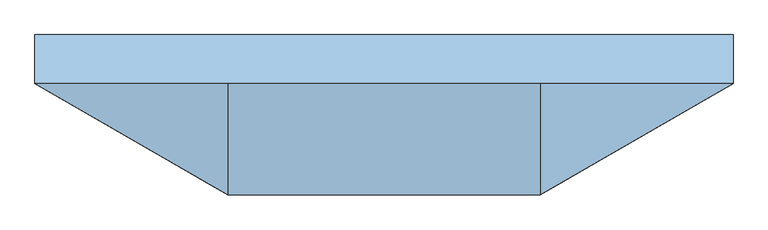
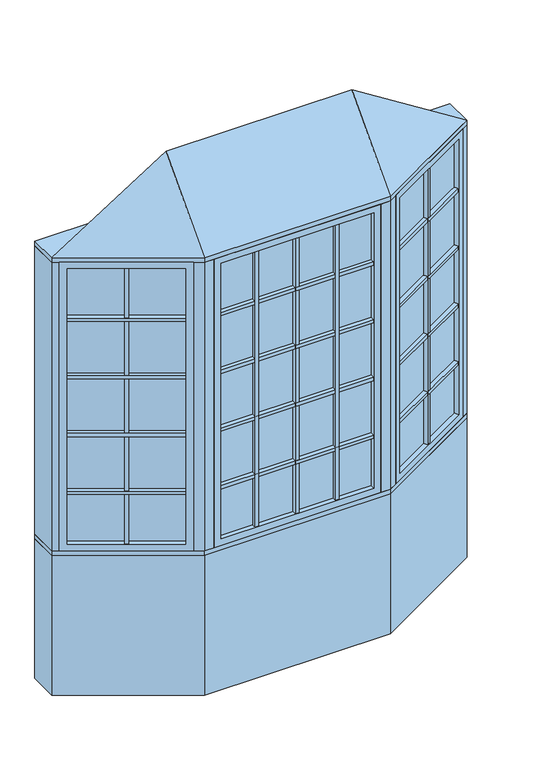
"""IFC4 building model written with IfcOpenShell, lengths in millimetres: window geometry, Pollard_Windows_Tudor Casement Bows and Bays : AML-BAY 30 AFR0516-12-600_GC."""

from ifc_helpers import new_model, si_unit, frame, origin, origin_with_axes, place, context, project, spatial, polyline, outline, extrude, faceted_brep, source, transform, mapped, element, save


def window_e866a77a(model_context):
    return source(origin(), model_context, "Body", "SolidModel", [
        extrude(outline(polyline([(560.381999, -376.6297343), (549.381999, -357.5771754), (1015.6135794, -88.3982469), (1026.6135794, -107.4508058), (560.381999, -376.6297343)])), frame((0.0, 0.0, 1110.998), z_axis=(0.0, 0.0, 1.0), x_axis=(1.0, 0.0, 0.0)), (0.0, 0.0, 1.0), 18.0),
        extrude(outline(polyline([(546.841999, -353.1777664), (535.841999, -334.1252075), (1002.0735794, -64.946279), (1013.0735794, -83.9988379), (546.841999, -353.1777664)])), frame((0.0, 0.0, 1110.998), z_axis=(0.0, 0.0, 1.0), x_axis=(1.0, 0.0, 0.0)), (0.0, 0.0, 1.0), 18.0),
        extrude(outline(polyline([(560.381999, -376.6297343), (549.381999, -357.5771754), (1015.6135794, -88.3982469), (1026.6135794, -107.4508058), (560.381999, -376.6297343)])), frame((0.0, 0.0, 1430.998), z_axis=(0.0, 0.0, 1.0), x_axis=(1.0, 0.0, 0.0)), (0.0, 0.0, 1.0), 18.0),
        extrude(outline(polyline([(546.841999, -353.1777664), (535.841999, -334.1252075), (1002.0735794, -64.946279), (1013.0735794, -83.9988379), (546.841999, -353.1777664)])), frame((0.0, 0.0, 1430.998), z_axis=(0.0, 0.0, 1.0), x_axis=(1.0, 0.0, 0.0)), (0.0, 0.0, 1.0), 18.0),
        extrude(outline(polyline([(560.381999, -376.6297343), (549.381999, -357.5771754), (1015.6135794, -88.3982469), (1026.6135794, -107.4508058), (560.381999, -376.6297343)])), frame((0.0, 0.0, 1750.998), z_axis=(0.0, 0.0, 1.0), x_axis=(1.0, 0.0, 0.0)), (0.0, 0.0, 1.0), 18.0),
        extrude(outline(polyline([(546.841999, -353.1777664), (535.841999, -334.1252075), (1002.0735794, -64.946279), (1013.0735794, -83.9988379), (546.841999, -353.1777664)])), frame((0.0, 0.0, 1750.998), z_axis=(0.0, 0.0, 1.0), x_axis=(1.0, 0.0, 0.0)), (0.0, 0.0, 1.0), 18.0),
        extrude(outline(polyline([(560.381999, -376.6297343), (549.381999, -357.5771754), (1015.6135794, -88.3982469), (1026.6135794, -107.4508058), (560.381999, -376.6297343)])), frame((0.0, 0.0, 2070.998), z_axis=(0.0, 0.0, 1.0), x_axis=(1.0, 0.0, 0.0)), (0.0, 0.0, 1.0), 18.0),
        extrude(outline(polyline([(546.841999, -353.1777664), (535.841999, -334.1252075), (1002.0735794, -64.946279), (1013.0735794, -83.9988379), (546.841999, -353.1777664)])), frame((0.0, 0.0, 2070.998), z_axis=(0.0, 0.0, 1.0), x_axis=(1.0, 0.0, 0.0)), (0.0, 0.0, 1.0), 18.0),
        extrude(outline(polyline([(790.2920178, -218.4877112), (801.2920178, -237.5402701), (785.7035606, -246.5402701), (774.7035606, -227.4877112), (790.2920178, -218.4877112)])), frame((0.0, 0.0, 835.8628), z_axis=(0.0, 0.0, 1.0), x_axis=(1.0, 0.0, 0.0)), (0.0, 0.0, 1.0), 1528.2704),
        extrude(outline(polyline([(787.7520178, -214.0883021), (772.1635606, -223.0883021), (761.1635606, -204.0357432), (776.7520178, -195.0357432), (787.7520178, -214.0883021)])), frame((0.0, 0.0, 835.8628), z_axis=(0.0, 0.0, 1.0), x_axis=(1.0, 0.0, 0.0)), (0.0, 0.0, 1.0), 1528.2704),
        extrude(outline(polyline([(1026.612102, -82.0482469), (538.3834764, -363.9271754), (535.8434764, -359.5277664), (1024.072102, -77.6488379), (1026.612102, -82.0482469)])), frame((0.0, 0.0, 823.1628), z_axis=(0.0, 0.0, 1.0), x_axis=(1.0, 0.0, 0.0)), (0.0, 0.0, 1.0), 1553.6704),
        faceted_brep([(1015.6135794, -88.3982469, 835.8628), (1028.3135794, -110.3952922, 835.8628), (1028.3135794, -110.3952922, 2364.1332), (1015.6135794, -88.3982469, 2364.1332), (1024.072102, -77.6488379, 823.1628), (1026.612102, -82.0482469, 823.1628), (1026.612102, -82.0482469, 2376.8332), (1024.072102, -77.6488379, 2376.8332), (1000.3735794, -62.0017926, 835.8628), (1013.0735794, -83.9988379, 835.8628), (1013.0735794, -83.9988379, 2364.1332), (1000.3735794, -62.0017926, 2364.1332), (1059.3734073, -92.4628922, 799.998), (1031.4334073, -44.0693926, 799.998), (1031.4334073, -44.0693926, 2399.998), (1059.3734073, -92.4628922, 2399.998), (562.081999, -379.5742207, 2364.1332), (549.381999, -357.5771754, 2364.1332), (538.3834764, -363.9271754, 2376.8332), (535.8434764, -359.5277664, 2376.8332), (546.841999, -353.1777664, 2364.1332), (534.141999, -331.1807211, 2364.1332), (503.0821711, -349.1131211, 2399.998), (531.0221711, -397.5066207, 2399.998), (562.081999, -379.5742207, 835.8628), (549.381999, -357.5771754, 835.8628), (538.3834764, -363.9271754, 823.1628), (535.8434764, -359.5277664, 823.1628), (546.841999, -353.1777664, 835.8628), (534.141999, -331.1807211, 835.8628), (503.0821711, -349.1131211, 799.998), (531.0221711, -397.5066207, 799.998)], [[[0, 1, 2, 3]], [[4, 5, 6, 7]], [[8, 9, 10, 11]], [[12, 13, 14, 15]], [[3, 2, 16, 17]], [[7, 6, 18, 19]], [[11, 10, 20, 21]], [[15, 14, 22, 23]], [[17, 16, 24, 25]], [[19, 18, 26, 27]], [[21, 20, 28, 29]], [[23, 22, 30, 31]], [[25, 24, 1, 0]], [[5, 26, 18, 6], [3, 17, 25, 0]], [[27, 26, 5, 4]], [[7, 19, 27, 4], [9, 28, 20, 10]], [[29, 28, 9, 8]], [[13, 30, 22, 14], [11, 21, 29, 8]], [[31, 30, 13, 12]], [[15, 23, 31, 12], [1, 24, 16, 2]]]),
        extrude(outline(polyline([(220.7781504, -397.1066207), (220.7781504, -419.1066207), (202.7781504, -419.1066207), (202.7781504, -397.1066207), (220.7781504, -397.1066207)])), frame((0.0, 0.0, 835.8628), z_axis=(0.0, 0.0, 1.0), x_axis=(1.0, 0.0, 0.0)), (0.0, 0.0, 1.0), 1528.2704),
        extrude(outline(polyline([(220.7781504, -392.0266207), (202.7781504, -392.0266207), (202.7781504, -370.0266207), (220.7781504, -370.0266207), (220.7781504, -392.0266207)])), frame((0.0, 0.0, 835.8628), z_axis=(0.0, 0.0, 1.0), x_axis=(1.0, 0.0, 0.0)), (0.0, 0.0, 1.0), 1528.2704),
        extrude(outline(polyline([(-202.7781504, -397.1066207), (-202.7781504, -419.1066207), (-220.7781504, -419.1066207), (-220.7781504, -397.1066207), (-202.7781504, -397.1066207)])), frame((0.0, 0.0, 835.8628), z_axis=(0.0, 0.0, 1.0), x_axis=(1.0, 0.0, 0.0)), (0.0, 0.0, 1.0), 1528.2704),
        extrude(outline(polyline([(-202.7781504, -392.0266207), (-220.7781504, -392.0266207), (-220.7781504, -370.0266207), (-202.7781504, -370.0266207), (-202.7781504, -392.0266207)])), frame((0.0, 0.0, 835.8628), z_axis=(0.0, 0.0, 1.0), x_axis=(1.0, 0.0, 0.0)), (0.0, 0.0, 1.0), 1528.2704),
        extrude(outline(polyline([(-401.8561009, -419.1066207), (-401.8561009, -397.1066207), (401.8561009, -397.1066207), (401.8561009, -419.1066207), (-401.8561009, -419.1066207)])), frame((0.0, 0.0, 1110.998), z_axis=(0.0, 0.0, 1.0), x_axis=(1.0, 0.0, 0.0)), (0.0, 0.0, 1.0), 18.0),
        extrude(outline(polyline([(-401.8561009, -392.0266207), (-401.8561009, -370.0266207), (401.8561009, -370.0266207), (401.8561009, -392.0266207), (-401.8561009, -392.0266207)])), frame((0.0, 0.0, 1110.998), z_axis=(0.0, 0.0, 1.0), x_axis=(1.0, 0.0, 0.0)), (0.0, 0.0, 1.0), 18.0),
        extrude(outline(polyline([(-401.8561009, -419.1066207), (-401.8561009, -397.1066207), (401.8561009, -397.1066207), (401.8561009, -419.1066207), (-401.8561009, -419.1066207)])), frame((0.0, 0.0, 1430.998), z_axis=(0.0, 0.0, 1.0), x_axis=(1.0, 0.0, 0.0)), (0.0, 0.0, 1.0), 18.0),
        extrude(outline(polyline([(-401.8561009, -392.0266207), (-401.8561009, -370.0266207), (401.8561009, -370.0266207), (401.8561009, -392.0266207), (-401.8561009, -392.0266207)])), frame((0.0, 0.0, 1430.998), z_axis=(0.0, 0.0, 1.0), x_axis=(1.0, 0.0, 0.0)), (0.0, 0.0, 1.0), 18.0),
        extrude(outline(polyline([(-401.8561009, -419.1066207), (-401.8561009, -397.1066207), (401.8561009, -397.1066207), (401.8561009, -419.1066207), (-401.8561009, -419.1066207)])), frame((0.0, 0.0, 1750.998), z_axis=(0.0, 0.0, 1.0), x_axis=(1.0, 0.0, 0.0)), (0.0, 0.0, 1.0), 18.0),
        extrude(outline(polyline([(-401.8561009, -392.0266207), (-401.8561009, -370.0266207), (401.8561009, -370.0266207), (401.8561009, -392.0266207), (-401.8561009, -392.0266207)])), frame((0.0, 0.0, 1750.998), z_axis=(0.0, 0.0, 1.0), x_axis=(1.0, 0.0, 0.0)), (0.0, 0.0, 1.0), 18.0),
        extrude(outline(polyline([(-1026.6135794, -107.4508058), (-1015.6135794, -88.3982469), (-549.381999, -357.5771754), (-560.381999, -376.6297343), (-1026.6135794, -107.4508058)])), frame((0.0, 0.0, 1110.998), z_axis=(0.0, 0.0, 1.0), x_axis=(1.0, 0.0, 0.0)), (0.0, 0.0, 1.0), 18.0),
        extrude(outline(polyline([(-1013.0735794, -83.9988379), (-1002.0735794, -64.946279), (-535.841999, -334.1252075), (-546.841999, -353.1777664), (-1013.0735794, -83.9988379)])), frame((0.0, 0.0, 1110.998), z_axis=(0.0, 0.0, 1.0), x_axis=(1.0, 0.0, 0.0)), (0.0, 0.0, 1.0), 18.0),
        extrude(outline(polyline([(-1026.6135794, -107.4508058), (-1015.6135794, -88.3982469), (-549.381999, -357.5771754), (-560.381999, -376.6297343), (-1026.6135794, -107.4508058)])), frame((0.0, 0.0, 1430.998), z_axis=(0.0, 0.0, 1.0), x_axis=(1.0, 0.0, 0.0)), (0.0, 0.0, 1.0), 18.0),
        extrude(outline(polyline([(-1013.0735794, -83.9988379), (-1002.0735794, -64.946279), (-535.841999, -334.1252075), (-546.841999, -353.1777664), (-1013.0735794, -83.9988379)])), frame((0.0, 0.0, 1430.998), z_axis=(0.0, 0.0, 1.0), x_axis=(1.0, 0.0, 0.0)), (0.0, 0.0, 1.0), 18.0),
        extrude(outline(polyline([(-1026.6135794, -107.4508058), (-1015.6135794, -88.3982469), (-549.381999, -357.5771754), (-560.381999, -376.6297343), (-1026.6135794, -107.4508058)])), frame((0.0, 0.0, 1750.998), z_axis=(0.0, 0.0, 1.0), x_axis=(1.0, 0.0, 0.0)), (0.0, 0.0, 1.0), 18.0),
        extrude(outline(polyline([(-1013.0735794, -83.9988379), (-1002.0735794, -64.946279), (-535.841999, -334.1252075), (-546.841999, -353.1777664), (-1013.0735794, -83.9988379)])), frame((0.0, 0.0, 1750.998), z_axis=(0.0, 0.0, 1.0), x_axis=(1.0, 0.0, 0.0)), (0.0, 0.0, 1.0), 18.0),
        extrude(outline(polyline([(-1026.6135794, -107.4508058), (-1015.6135794, -88.3982469), (-549.381999, -357.5771754), (-560.381999, -376.6297343), (-1026.6135794, -107.4508058)])), frame((0.0, 0.0, 2070.998), z_axis=(0.0, 0.0, 1.0), x_axis=(1.0, 0.0, 0.0)), (0.0, 0.0, 1.0), 18.0),
        extrude(outline(polyline([(-1013.0735794, -83.9988379), (-1002.0735794, -64.946279), (-535.841999, -334.1252075), (-546.841999, -353.1777664), (-1013.0735794, -83.9988379)])), frame((0.0, 0.0, 2070.998), z_axis=(0.0, 0.0, 1.0), x_axis=(1.0, 0.0, 0.0)), (0.0, 0.0, 1.0), 18.0),
        extrude(outline(polyline([(-401.8561009, -419.1066207), (-401.8561009, -397.1066207), (401.8561009, -397.1066207), (401.8561009, -419.1066207), (-401.8561009, -419.1066207)])), frame((0.0, 0.0, 2070.998), z_axis=(0.0, 0.0, 1.0), x_axis=(1.0, 0.0, 0.0)), (0.0, 0.0, 1.0), 18.0),
        extrude(outline(polyline([(-401.8561009, -392.0266207), (-401.8561009, -370.0266207), (401.8561009, -370.0266207), (401.8561009, -392.0266207), (-401.8561009, -392.0266207)])), frame((0.0, 0.0, 2070.998), z_axis=(0.0, 0.0, 1.0), x_axis=(1.0, 0.0, 0.0)), (0.0, 0.0, 1.0), 18.0),
        extrude(outline(polyline([(-774.7035606, -227.4877112), (-785.7035606, -246.5402701), (-801.2920178, -237.5402701), (-790.2920178, -218.4877112), (-774.7035606, -227.4877112)])), frame((0.0, 0.0, 835.8628), z_axis=(0.0, 0.0, 1.0), x_axis=(1.0, 0.0, 0.0)), (0.0, 0.0, 1.0), 1528.2704),
        extrude(outline(polyline([(-772.1635606, -223.0883021), (-787.7520178, -214.0883021), (-776.7520178, -195.0357432), (-761.1635606, -204.0357432), (-772.1635606, -223.0883021)])), frame((0.0, 0.0, 835.8628), z_axis=(0.0, 0.0, 1.0), x_axis=(1.0, 0.0, 0.0)), (0.0, 0.0, 1.0), 1528.2704),
        extrude(outline(polyline([(9.0, -397.1066207), (9.0, -419.1066207), (-9.0, -419.1066207), (-9.0, -397.1066207), (9.0, -397.1066207)])), frame((0.0, 0.0, 835.8628), z_axis=(0.0, 0.0, 1.0), x_axis=(1.0, 0.0, 0.0)), (0.0, 0.0, 1.0), 1528.2704),
        extrude(outline(polyline([(9.0, -392.0266207), (-9.0, -392.0266207), (-9.0, -370.0266207), (9.0, -370.0266207), (9.0, -392.0266207)])), frame((0.0, 0.0, 835.8628), z_axis=(0.0, 0.0, 1.0), x_axis=(1.0, 0.0, 0.0)), (0.0, 0.0, 1.0), 1528.2704),
        extrude(outline(polyline([(-538.3834764, -363.9271754), (-1026.612102, -82.0482469), (-1024.072102, -77.6488379), (-535.8434764, -359.5277664), (-538.3834764, -363.9271754)])), frame((0.0, 0.0, 823.1628), z_axis=(0.0, 0.0, 1.0), x_axis=(1.0, 0.0, 0.0)), (0.0, 0.0, 1.0), 1553.6704),
        faceted_brep([(-546.841999, -353.1777664, 2364.1332), (-534.141999, -331.1807211, 2364.1332), (-534.141999, -331.1807211, 835.8628), (-546.841999, -353.1777664, 835.8628), (-538.3834764, -363.9271754, 2376.8332), (-535.8434764, -359.5277664, 2376.8332), (-535.8434764, -359.5277664, 823.1628), (-538.3834764, -363.9271754, 823.1628), (-562.081999, -379.5742207, 2364.1332), (-549.381999, -357.5771754, 2364.1332), (-549.381999, -357.5771754, 835.8628), (-562.081999, -379.5742207, 835.8628), (-503.0821711, -349.1131211, 2399.998), (-531.0221711, -397.5066207, 2399.998), (-531.0221711, -397.5066207, 799.998), (-503.0821711, -349.1131211, 799.998), (-1000.3735794, -62.0017926, 835.8628), (-1013.0735794, -83.9988379, 835.8628), (-1024.072102, -77.6488379, 823.1628), (-1026.612102, -82.0482469, 823.1628), (-1015.6135794, -88.3982469, 835.8628), (-1028.3135794, -110.3952922, 835.8628), (-1059.3734073, -92.4628922, 799.998), (-1031.4334073, -44.0693926, 799.998), (-1000.3735794, -62.0017926, 2364.1332), (-1013.0735794, -83.9988379, 2364.1332), (-1024.072102, -77.6488379, 2376.8332), (-1026.612102, -82.0482469, 2376.8332), (-1015.6135794, -88.3982469, 2364.1332), (-1028.3135794, -110.3952922, 2364.1332), (-1059.3734073, -92.4628922, 2399.998), (-1031.4334073, -44.0693926, 2399.998)], [[[0, 1, 2, 3]], [[4, 5, 6, 7]], [[8, 9, 10, 11]], [[12, 13, 14, 15]], [[3, 2, 16, 17]], [[7, 6, 18, 19]], [[11, 10, 20, 21]], [[15, 14, 22, 23]], [[17, 16, 24, 25]], [[19, 18, 26, 27]], [[21, 20, 28, 29]], [[23, 22, 30, 31]], [[15, 23, 31, 12], [1, 24, 16, 2]], [[25, 24, 1, 0]], [[5, 26, 18, 6], [3, 17, 25, 0]], [[27, 26, 5, 4]], [[7, 19, 27, 4], [9, 28, 20, 10]], [[29, 28, 9, 8]], [[13, 30, 22, 14], [11, 21, 29, 8]], [[31, 30, 13, 12]]]),
        extrude(outline(polyline([(414.5561009, -397.1066207), (-414.5561009, -397.1066207), (-414.5561009, -392.0266207), (414.5561009, -392.0266207), (414.5561009, -397.1066207)])), frame((0.0, 0.0, 823.1628), z_axis=(0.0, 0.0, 1.0), x_axis=(1.0, 0.0, 0.0)), (0.0, 0.0, 1.0), 1553.6704),
        faceted_brep([(401.8561009, -397.1066207, 835.8628), (401.8561009, -422.5066207, 835.8628), (401.8561009, -422.5066207, 2364.1332), (401.8561009, -397.1066207, 2364.1332), (414.5561009, -392.0266207, 823.1628), (414.5561009, -397.1066207, 823.1628), (414.5561009, -397.1066207, 2376.8332), (414.5561009, -392.0266207, 2376.8332), (401.8561009, -366.6266207, 835.8628), (401.8561009, -392.0266207, 835.8628), (401.8561009, -392.0266207, 2364.1332), (401.8561009, -366.6266207, 2364.1332), (437.7209009, -422.5066207, 799.998), (437.7209009, -366.6266207, 799.998), (437.7209009, -366.6266207, 2399.998), (437.7209009, -422.5066207, 2399.998), (-401.8561009, -422.5066207, 2364.1332), (-401.8561009, -397.1066207, 2364.1332), (-414.5561009, -397.1066207, 2376.8332), (-414.5561009, -392.0266207, 2376.8332), (-401.8561009, -392.0266207, 2364.1332), (-401.8561009, -366.6266207, 2364.1332), (-437.7209009, -366.6266207, 2399.998), (-437.7209009, -422.5066207, 2399.998), (-401.8561009, -422.5066207, 835.8628), (-401.8561009, -397.1066207, 835.8628), (-414.5561009, -397.1066207, 823.1628), (-414.5561009, -392.0266207, 823.1628), (-401.8561009, -392.0266207, 835.8628), (-401.8561009, -366.6266207, 835.8628), (-437.7209009, -366.6266207, 799.998), (-437.7209009, -422.5066207, 799.998)], [[[0, 1, 2, 3]], [[4, 5, 6, 7]], [[8, 9, 10, 11]], [[12, 13, 14, 15]], [[3, 2, 16, 17]], [[7, 6, 18, 19]], [[11, 10, 20, 21]], [[15, 14, 22, 23]], [[17, 16, 24, 25]], [[19, 18, 26, 27]], [[21, 20, 28, 29]], [[23, 22, 30, 31]], [[15, 23, 31, 12], [1, 24, 16, 2]], [[25, 24, 1, 0]], [[5, 26, 18, 6], [3, 17, 25, 0]], [[27, 26, 5, 4]], [[7, 19, 27, 4], [9, 28, 20, 10]], [[29, 28, 9, 8]], [[13, 30, 22, 14], [11, 21, 29, 8]], [[31, 30, 13, 12]]]),
        faceted_brep([(1090.0, -74.7806207, 2425.398), (487.7209009, -422.5066207, 2425.398), (-487.7209009, -422.5066207, 2425.398), (-1090.0, -74.7806207, 2425.398), (-487.7209009, -74.7806207, 2806.398), (487.7209009, -74.7806207, 2806.398)], [[[0, 1, 2, 3]], [[3, 2, 4]], [[2, 1, 5, 4]], [[1, 0, 5]], [[0, 3, 4, 5]]]),
        extrude(outline(polyline([(-1090.0, 77.6193793), (1090.0, 77.6193793), (1090.0, -74.7806207), (487.7209009, -422.5066207), (-487.7209009, -422.5066207), (-1090.0, -74.7806207), (-1090.0, 77.6193793)])), frame((0.0, 0.0, 2399.998), z_axis=(0.0, 0.0, 1.0), x_axis=(1.0, 0.0, 0.0)), (0.0, 0.0, 1.0), 25.4),
        extrude(outline(polyline([(-1090.0, -74.7806207), (-1090.0, 77.6193793), (-1049.1645431, 77.6193793), (-1049.1645431, -74.7806207), (-1059.3734073, -92.4628922), (-1090.0, -74.7806207)])), frame((0.0, 0.0, 799.998), z_axis=(0.0, 0.0, 1.0), x_axis=(1.0, 0.0, 0.0)), (0.0, 0.0, 1.0), 1600.0),
        extrude(outline(polyline([(1090.0, 77.6193793), (1090.0, -74.7806207), (1059.3734073, -92.4628922), (1049.1645431, -74.7806207), (1049.1645431, 77.6193793), (1090.0, 77.6193793)])), frame((0.0, 0.0, 799.998), z_axis=(0.0, 0.0, 1.0), x_axis=(1.0, 0.0, 0.0)), (0.0, 0.0, 1.0), 1600.0),
        extrude(outline(polyline([(487.7209009, -422.5066207), (437.7209009, -422.5066207), (437.7209009, -372.5066207), (474.3234413, -372.5066207), (506.0221711, -354.2053505), (531.0221711, -397.5066207), (487.7209009, -422.5066207)])), frame((0.0, 0.0, 799.998), z_axis=(0.0, 0.0, 1.0), x_axis=(1.0, 0.0, 0.0)), (0.0, 0.0, 1.0), 1600.0),
        extrude(outline(polyline([(-487.7209009, -422.5066207), (-531.0221711, -397.5066207), (-506.0221711, -354.2053505), (-474.3234413, -372.5066207), (-437.7209009, -372.5066207), (-437.7209009, -422.5066207), (-487.7209009, -422.5066207)])), frame((0.0, 0.0, 799.998), z_axis=(0.0, 0.0, 1.0), x_axis=(1.0, 0.0, 0.0)), (0.0, 0.0, 1.0), 1600.0),
        extrude(outline(polyline([(-487.7209009, -422.5066207), (-1090.0, -74.7806207), (-1090.0, 77.6193793), (-1049.1645431, 77.6193793), (-446.885444, -270.1066207), (446.885444, -270.1066207), (1049.1645431, 77.6193793), (1090.0, 77.6193793), (1090.0, -74.7806207), (487.7209009, -422.5066207), (-487.7209009, -422.5066207)])), frame((0.0, 0.0, 774.598), z_axis=(0.0, 0.0, 1.0), x_axis=(1.0, 0.0, 0.0)), (0.0, 0.0, 1.0), 25.4),
        extrude(outline(polyline([(-1090.0, -74.7806207), (-1090.0, 77.6193793), (-1049.1645431, 77.6193793), (-446.885444, -270.1066207), (446.885444, -270.1066207), (1049.1645431, 77.6193793), (1090.0, 77.6193793), (1090.0, -74.7806207), (487.7209009, -422.5066207), (-487.7209009, -422.5066207), (-1090.0, -74.7806207)])), origin_with_axes(), (0.0, 0.0, 1.0), 774.598),
    ])


if __name__ == "__main__":
    model = new_model("IFC4")
    model_context = context("Model", 3, world=origin())
    ifc_project = project(units=[si_unit("LENGTHUNIT", "METRE", prefix="MILLI")], contexts=[model_context])
    site = spatial("IfcSite", under=ifc_project)
    building = spatial("IfcBuilding", under=site)
    placement = place(None, origin())
    window_shape = window_e866a77a(model_context)
    element("IfcWindow", 1, ObjectType="Pollard_Windows_Tudor Casement Bows and Bays : AML-BAY 30 AFR0516-12-600_GC", at=placement, inside=building, context=model_context, shape_type="MappedRepresentation", body=[
        mapped(window_shape, transform((0.0, 0.0, 0.0), x_axis=(1.0, 0.0, 0.0), y_axis=(0.0, 1.0, 0.0), z_axis=(0.0, 0.0, 1.0))),
    ])
    save(model, "model.ifc")
